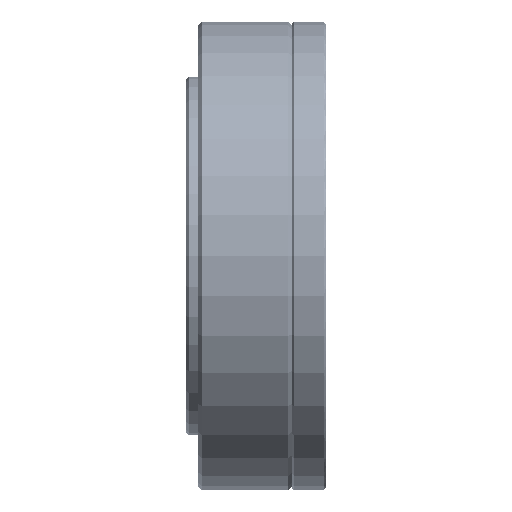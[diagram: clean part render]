
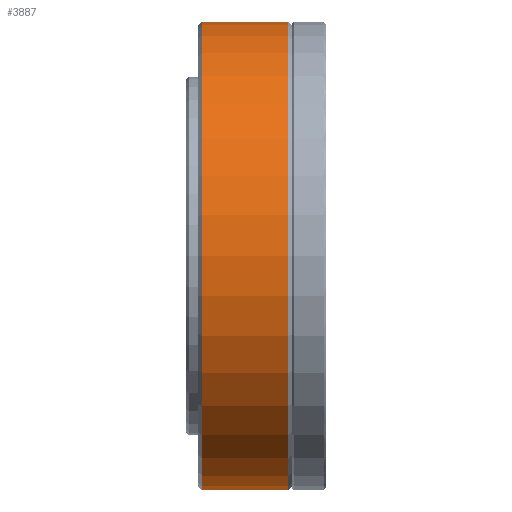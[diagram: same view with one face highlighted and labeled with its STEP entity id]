
A CAD part, top view. The second image highlights one B-rep face of the part: STEP entity #3887.
In plain terms, the highlighted cylindrical face has radius 45 mm (diameter 90 mm), a partial arc.
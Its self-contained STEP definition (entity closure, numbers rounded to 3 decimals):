
#3149=CIRCLE('',#17471,45.);
#3150=CIRCLE('',#17472,45.);
#3887=ADVANCED_FACE('',(#5178),#4843,.T.);
#4843=CYLINDRICAL_SURFACE('',#17473,45.);
#5178=FACE_OUTER_BOUND('',#5882,.T.);
#5882=EDGE_LOOP('',(#8348,#8349,#8350,#8351));
#8348=ORIENTED_EDGE('',*,*,#14018,.T.);
#8349=ORIENTED_EDGE('',*,*,#14020,.T.);
#8350=ORIENTED_EDGE('',*,*,#14016,.F.);
#8351=ORIENTED_EDGE('',*,*,#14021,.T.);
#12419=VERTEX_POINT('',#29821);
#12420=VERTEX_POINT('',#29822);
#12421=VERTEX_POINT('',#29824);
#12422=VERTEX_POINT('',#29826);
#14016=EDGE_CURVE('',#12419,#12420,#15913,.T.);
#14018=EDGE_CURVE('',#12422,#12421,#15914,.T.);
#14020=EDGE_CURVE('',#12421,#12420,#3149,.T.);
#14021=EDGE_CURVE('',#12419,#12422,#3150,.T.);
#15913=LINE('',#29820,#16667);
#15914=LINE('',#29825,#16668);
#16667=VECTOR('',#19254,1.);
#16668=VECTOR('',#19257,1.);
#17471=AXIS2_PLACEMENT_3D('',#29829,#19262,#19263);
#17472=AXIS2_PLACEMENT_3D('',#29830,#19264,#19265);
#17473=AXIS2_PLACEMENT_3D('',#29831,#19266,#19267);
#19254=DIRECTION('',(-1.,0.,0.));
#19257=DIRECTION('',(-1.,0.,0.));
#19262=DIRECTION('',(1.,0.,0.));
#19263=DIRECTION('',(0.,-1.,0.));
#19264=DIRECTION('',(-1.,0.,0.));
#19265=DIRECTION('',(0.,-1.,0.));
#19266=DIRECTION('',(-1.,0.,0.));
#19267=DIRECTION('',(0.,1.,0.));
#29820=CARTESIAN_POINT('',(0.,-45.,0.));
#29821=CARTESIAN_POINT('',(20.8,-45.,0.));
#29822=CARTESIAN_POINT('',(4.2,-45.,0.));
#29824=CARTESIAN_POINT('',(4.2,45.,0.));
#29825=CARTESIAN_POINT('',(0.,45.,0.));
#29826=CARTESIAN_POINT('',(20.8,45.,0.));
#29829=CARTESIAN_POINT('',(4.2,0.,0.));
#29830=CARTESIAN_POINT('',(20.8,0.,0.));
#29831=CARTESIAN_POINT('',(0.,0.,0.));
